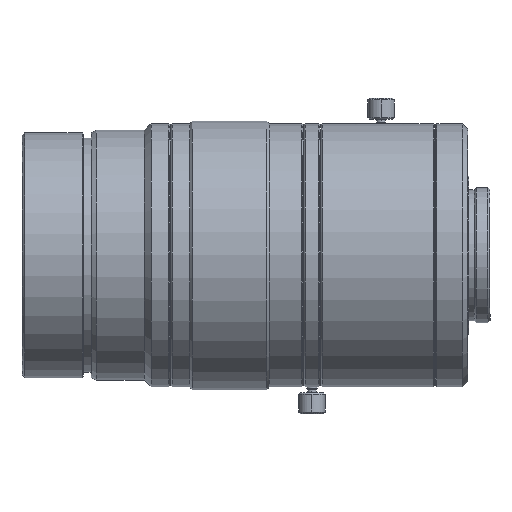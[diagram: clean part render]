
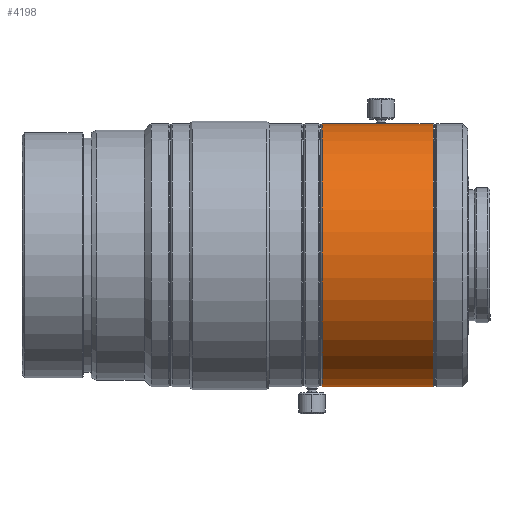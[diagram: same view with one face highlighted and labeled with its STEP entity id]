
A CAD part, top view. The second image highlights one B-rep face of the part: STEP entity #4198.
In plain terms, the highlighted cylindrical face has radius 24.75 mm (diameter 49.5 mm), a partial arc.
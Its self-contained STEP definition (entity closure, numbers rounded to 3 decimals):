
#45 = VERTEX_POINT ( 'NONE', #1390 ) ;
#142 = DIRECTION ( 'NONE',  ( 1., 0., 0. ) ) ;
#198 = DIRECTION ( 'NONE',  ( 0., 1., 0. ) ) ;
#223 = CARTESIAN_POINT ( 'NONE',  ( -33.996, 24.73, 1. ) ) ;
#345 = CARTESIAN_POINT ( 'NONE',  ( -24.196, 0., 0. ) ) ;
#491 = CARTESIAN_POINT ( 'NONE',  ( -34.996, 24.75, 0.264 ) ) ;
#559 = CARTESIAN_POINT ( 'NONE',  ( -32.996, 24.75, 0.131 ) ) ;
#597 = VECTOR ( 'NONE', #142, 1000. ) ;
#641 = VERTEX_POINT ( 'NONE', #4595 ) ;
#744 = EDGE_CURVE ( 'NONE', #3417, #2172, #4644, .T. ) ;
#806 = DIRECTION ( 'NONE',  ( 1., 0., 0. ) ) ;
#889 = CARTESIAN_POINT ( 'NONE',  ( 0., -24.75, 0. ) ) ;
#942 = CARTESIAN_POINT ( 'NONE',  ( -45.096, 24.75, 0. ) ) ;
#1036 = ORIENTED_EDGE ( 'NONE', *, *, #2006, .F. ) ;
#1293 = ORIENTED_EDGE ( 'NONE', *, *, #744, .F. ) ;
#1332 = CARTESIAN_POINT ( 'NONE',  ( -34.128, 24.73, 1. ) ) ;
#1390 = CARTESIAN_POINT ( 'NONE',  ( -32.996, 24.75, 0. ) ) ;
#1399 = DIRECTION ( 'NONE',  ( 0., 1., 0. ) ) ;
#1418 = CARTESIAN_POINT ( 'NONE',  ( -33.492, 24.735, 0.874 ) ) ;
#1597 = CARTESIAN_POINT ( 'NONE',  ( -24.196, -24.75, 0. ) ) ;
#1675 = FACE_OUTER_BOUND ( 'NONE', #3827, .T. ) ;
#1740 = CARTESIAN_POINT ( 'NONE',  ( 0., 24.75, 0. ) ) ;
#1788 = CARTESIAN_POINT ( 'NONE',  ( -33.196, 24.743, 0.615 ) ) ;
#1792 = ORIENTED_EDGE ( 'NONE', *, *, #2826, .T. ) ;
#1859 = LINE ( 'NONE', #889, #3783 ) ;
#1895 = EDGE_CURVE ( 'NONE', #45, #2446, #4421, .T. ) ;
#1903 = ORIENTED_EDGE ( 'NONE', *, *, #2917, .F. ) ;
#1940 = CARTESIAN_POINT ( 'NONE',  ( -33.864, 24.73, 1. ) ) ;
#1953 = CARTESIAN_POINT ( 'NONE',  ( -34.887, 24.745, 0.523 ) ) ;
#2006 = EDGE_CURVE ( 'NONE', #4149, #641, #4478, .T. ) ;
#2024 = CARTESIAN_POINT ( 'NONE',  ( -32.996, 24.75, 0. ) ) ;
#2160 = CARTESIAN_POINT ( 'NONE',  ( -33.022, 24.749, 0.262 ) ) ;
#2172 = VERTEX_POINT ( 'NONE', #1597 ) ;
#2239 = AXIS2_PLACEMENT_3D ( 'NONE', #2974, #806, #3334 ) ;
#2342 = EDGE_CURVE ( 'NONE', #2446, #641, #2674, .T. ) ;
#2422 = AXIS2_PLACEMENT_3D ( 'NONE', #3462, #4579, #198 ) ;
#2446 = VERTEX_POINT ( 'NONE', #3734 ) ;
#2515 = VERTEX_POINT ( 'NONE', #3580 ) ;
#2538 = VECTOR ( 'NONE', #3535, 1000. ) ;
#2627 = ORIENTED_EDGE ( 'NONE', *, *, #1895, .T. ) ;
#2674 = B_SPLINE_CURVE_WITH_KNOTS ( 'NONE', 3,
 ( #223, #1332, #3402, #2995, #3390, #1953, #491, #3021 ),
 .UNSPECIFIED., .F., .F.,
 ( 4, 2, 2, 4 ),
 ( 0.005, 0.005, 0.005, 0.006 ),
 .UNSPECIFIED. ) ;
#2826 = EDGE_CURVE ( 'NONE', #4149, #2515, #2983, .T. ) ;
#2917 = EDGE_CURVE ( 'NONE', #45, #3417, #3617, .T. ) ;
#2974 = CARTESIAN_POINT ( 'NONE',  ( -45.096, 0., 0. ) ) ;
#2983 = CIRCLE ( 'NONE', #2239, 24.75 ) ;
#2995 = CARTESIAN_POINT ( 'NONE',  ( -34.5, 24.735, 0.874 ) ) ;
#3021 = CARTESIAN_POINT ( 'NONE',  ( -34.996, 24.75, 0. ) ) ;
#3047 = DIRECTION ( 'NONE',  ( 1., 0., 0. ) ) ;
#3210 = AXIS2_PLACEMENT_3D ( 'NONE', #345, #3935, #1399 ) ;
#3334 = DIRECTION ( 'NONE',  ( 0., 1., 0. ) ) ;
#3347 = ORIENTED_EDGE ( 'NONE', *, *, #3490, .T. ) ;
#3390 = CARTESIAN_POINT ( 'NONE',  ( -34.611, 24.737, 0.8 ) ) ;
#3402 = CARTESIAN_POINT ( 'NONE',  ( -34.258, 24.731, 0.974 ) ) ;
#3417 = VERTEX_POINT ( 'NONE', #4073 ) ;
#3462 = CARTESIAN_POINT ( 'NONE',  ( 0., 0., 0. ) ) ;
#3490 = EDGE_CURVE ( 'NONE', #2515, #2172, #1859, .T. ) ;
#3535 = DIRECTION ( 'NONE',  ( 1., 0., 0. ) ) ;
#3580 = CARTESIAN_POINT ( 'NONE',  ( -45.096, -24.75, 0. ) ) ;
#3589 = CARTESIAN_POINT ( 'NONE',  ( -33.734, 24.731, 0.974 ) ) ;
#3617 = LINE ( 'NONE', #3768, #597 ) ;
#3734 = CARTESIAN_POINT ( 'NONE',  ( -33.996, 24.73, 1. ) ) ;
#3768 = CARTESIAN_POINT ( 'NONE',  ( 0., 24.75, 0. ) ) ;
#3783 = VECTOR ( 'NONE', #3047, 1000. ) ;
#3827 = EDGE_LOOP ( 'NONE', ( #1792, #3347, #1293, #1903, #2627, #4201, #1036 ) ) ;
#3935 = DIRECTION ( 'NONE',  ( 1., 0., 0. ) ) ;
#3967 = CARTESIAN_POINT ( 'NONE',  ( -33.381, 24.737, 0.799 ) ) ;
#4073 = CARTESIAN_POINT ( 'NONE',  ( -24.196, 24.75, 0. ) ) ;
#4119 = CYLINDRICAL_SURFACE ( 'NONE', #2422, 24.75 ) ;
#4149 = VERTEX_POINT ( 'NONE', #942 ) ;
#4198 = ADVANCED_FACE ( 'NONE', ( #1675 ), #4119, .T. ) ;
#4201 = ORIENTED_EDGE ( 'NONE', *, *, #2342, .T. ) ;
#4324 = CARTESIAN_POINT ( 'NONE',  ( -33.122, 24.745, 0.503 ) ) ;
#4421 = B_SPLINE_CURVE_WITH_KNOTS ( 'NONE', 3,
 ( #2024, #559, #2160, #4324, #1788, #3967, #1418, #3589, #1940, #4653 ),
 .UNSPECIFIED., .F., .F.,
 ( 4, 2, 2, 2, 4 ),
 ( 0.003, 0.004, 0.004, 0.004, 0.005 ),
 .UNSPECIFIED. ) ;
#4478 = LINE ( 'NONE', #1740, #2538 ) ;
#4579 = DIRECTION ( 'NONE',  ( 1., 0., 0. ) ) ;
#4595 = CARTESIAN_POINT ( 'NONE',  ( -34.996, 24.75, 0. ) ) ;
#4644 = CIRCLE ( 'NONE', #3210, 24.75 ) ;
#4653 = CARTESIAN_POINT ( 'NONE',  ( -33.996, 24.73, 1. ) ) ;
